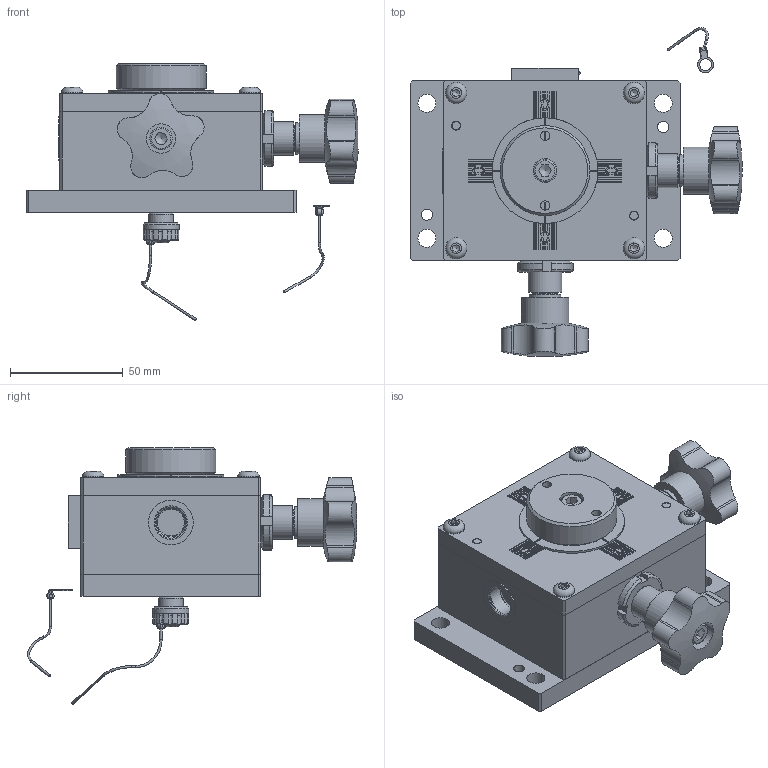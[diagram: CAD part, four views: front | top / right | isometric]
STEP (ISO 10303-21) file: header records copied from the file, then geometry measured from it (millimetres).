
FILE_DESCRIPTION(/* description */ (''),/* implementation_level */ '2;1');
FILE_NAME(/* name */ 'C:\Local Work Area\Progetti\AP\CALIBRI\146.00 Posizionatore\146.00\146.00-DX.stp',/* time_stamp */ '2020-02-20T14:54:24+01:00',/* author */ ('CAD5'),/* organization */ (''),/* preprocessor_version */ 'ST-DEVELOPER v17.2',/* originating_system */ 'Autodesk Inventor 2019',/* authorisation */ '');
FILE_SCHEMA (('AUTOMOTIVE_DESIGN { 1 0 10303 214 3 1 1 }'));
Length unit declared in the file: millimetre
Products named in the file (33): 146.00-DX; 146.03; 146.01; 146.07; 146.02; 146.00_002 Ass manopola-01; 146.09; UNI 5931 - M 6 x  30; Manopola mecanoplastica 12010250; 146.10; UNI 5933 - M4 x 20; UNI 5923 - M6 x 1 x 8; B12.5 UNI8773; GHIERA M15x1 KM2; UNI 5931 - M5 x 0,8 x 16; ISO 2338 - 5 m6 x 20 - A; Copia di ISO 7380 - M5 x 16; 146.06; UNI 5927 - M5 x 6; 146.00_001 Attrezzatura; 146.04; 146.05; UNI 5931 - M 6 x  20; 146.00 Ass spina; ISO 8735 - 8 x 35 - A; VOLANTINO ZIGRINATO - 130 10 100; catenella; catenella-1; catenella-2; UNI ISO 7380 - M5 x 20; TAPPO_001; ISO 8734 - Ø4 x 16 - A (AP); 146.11
Assembly tree (43 placements, depth 4):
  146.00-DX
    146.03
    146.01
    146.07
    146.02
    146.00_002 Ass manopola-01  x2
      146.09
      UNI 5931 - M 6 x  30
      Manopola mecanoplastica 12010250
      146.10
      UNI 5933 - M4 x 20
      UNI 5923 - M6 x 1 x 8
      B12.5 UNI8773
    GHIERA M15x1 KM2  x2
    UNI 5931 - M5 x 0,8 x 16  x4
    ISO 2338 - 5 m6 x 20 - A  x2
    Copia di ISO 7380 - M5 x 16  x4
    146.06
    UNI 5927 - M5 x 6
    146.00_001 Attrezzatura
      146.04
      146.05
      UNI 5931 - M 6 x  20
    146.00 Ass spina
      ISO 8735 - 8 x 35 - A
      VOLANTINO ZIGRINATO - 130 10 100
      catenella
        catenella-1
        catenella-2
      UNI ISO 7380 - M5 x 20
    TAPPO_001
    ISO 8734 - Ø4 x 16 - A (AP)  x2
    146.11
Bounding box: 147.51 x 146.22 x 114.1 mm (x, y, z)
Volume: 410452.4 mm3; surface area: 140228.8 mm2
Topology: 48 solids, 48 shells, 1121 faces, 2910 edges, 1984 vertices
Faces by surface type: plane 691, cylinder 224, cone 96, bspline 56, torus 53, sphere 1
Full cylindrical faces by diameter (mm): 1 x6, 3.242 x2, 4 x8, 4.1 x2, 4.134 x12, 4.135 x1, 4.917 x5, 5 x23, 5.2 x2, 5.3 x1, 5.333 x1, 6 x7, 6.1 x1, 6.4 x4, 6.5 x4, 7.64 x2, 8 x15, 8.5 x4, 9 x4, 9.5 x5, 10 x3, 10.5 x1, 11 x1, 11.5 x6, 12 x5, 12.9 x1, 13 x2, 13.867 x1, 13.9 x1, 13.917 x3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
Entity records: 30151 total; most frequent: CARTESIAN_POINT 6597, ORIENTED_EDGE 4580, DIRECTION 4475, EDGE_CURVE 2290, VERTEX_POINT 1574, AXIS2_PLACEMENT_3D 1527, LINE 1421, VECTOR 1421
